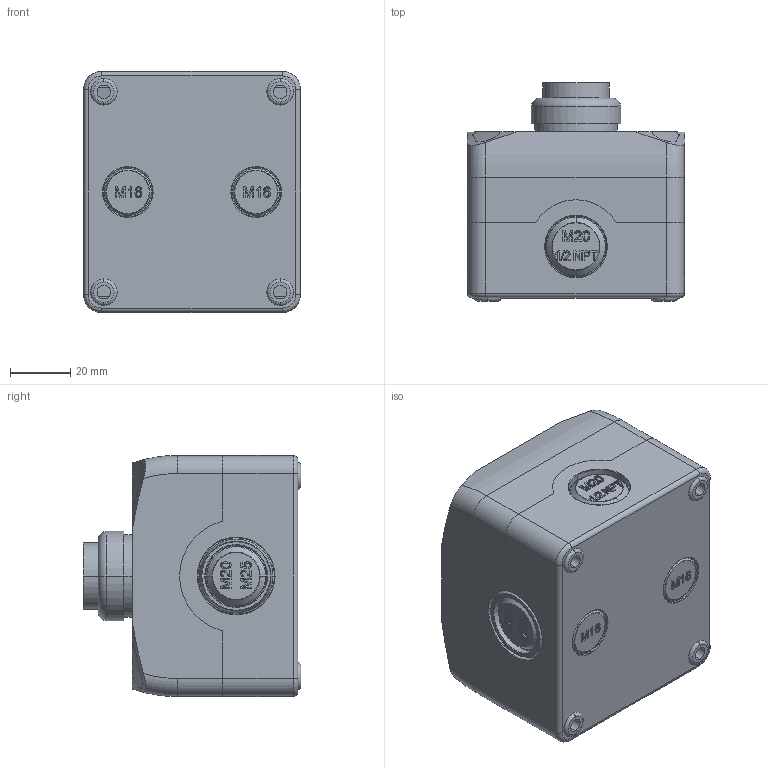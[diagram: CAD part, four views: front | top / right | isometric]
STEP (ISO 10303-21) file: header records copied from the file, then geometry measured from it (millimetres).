
FILE_DESCRIPTION (( 'STEP AP203' ), '1' );
FILE_NAME ('ZF_STEP_ES_AC31017_A11.STEP', '2011-12-12T09:46:22', ( 'Pizzato Elettrica' ), ( '' ), 'SwSTEP 2.0', 'SolidWorks 2011', '' );
FILE_SCHEMA (( 'CONFIG_CONTROL_DESIGN' ));
Length unit declared in the file: millimetre
Products named in the file (6): ZF_STEP_ES_AC31017_A11; Tappo D_24176; Tappo C_24175; ZF_STEP_E2_xPUxSx2xx_A10; 24171_3DWeb_24151; 24170_3DWeb_24150
Assembly tree (7 placements, depth 2):
  ZF_STEP_ES_AC31017_A11
    ZF_STEP_E2_xPUxSx2xx_A10
    24170_3DWeb_24150
    24171_3DWeb_24151
    Tappo C_24175  x2
    Tappo D_24176  x2
Bounding box: 72 x 72.3 x 80 mm (x, y, z)
Volume: 305500.3 mm3; surface area: 58837.4 mm2
Topology: 7 solids, 7 shells, 1010 faces, 2591 edges, 1691 vertices
Faces by surface type: plane 492, bspline 204, cylinder 170, torus 78, cone 56, sphere 10
Entity records: 38969 total; most frequent: CARTESIAN_POINT 17208, ORIENTED_EDGE 4654, DIRECTION 3830, EDGE_CURVE 2327, VERTEX_POINT 1519, LINE 1312, VECTOR 1312, AXIS2_PLACEMENT_3D 1259
